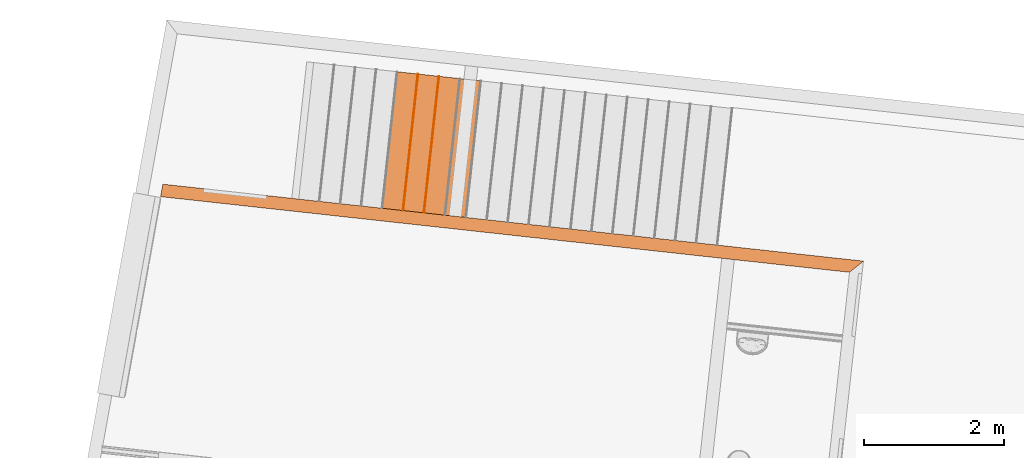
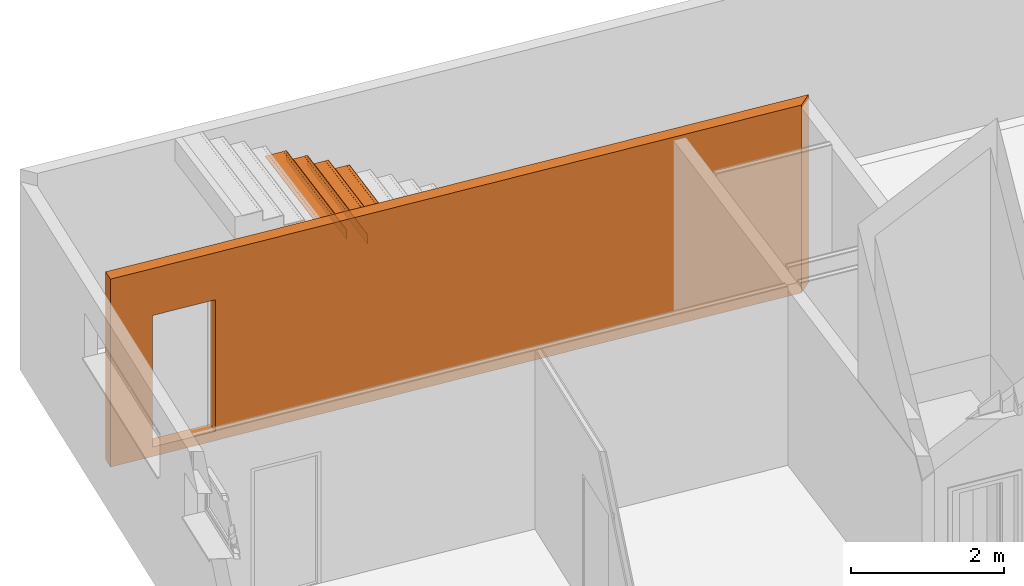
# One storey, part 74 of 79: 7 proxies, 1 element without a shape of its own.
"""IFC2X3 building model written with IfcOpenShell, lengths in metres."""

from ifc_helpers import new_model, entity, si_unit, converted_unit, derived_unit, money_unit, direction, frame, origin_with_axes, place, context, subcontext, project, spatial, polyline, outline, extrude, boolean, faceted_brep, material, type_object, element, aggregate, save


model = new_model("IFC2X3")

# Units and contexts
model_context = context("Model", 3, precision=1e-05, world=origin_with_axes(), true_north=direction((0.0, 1.0)))
body_context = subcontext(model_context, "Body", "Model", "MODEL_VIEW")
ifc_project = project(units=[si_unit("LENGTHUNIT", "METRE"), si_unit("AREAUNIT", "SQUARE_METRE"), si_unit("VOLUMEUNIT", "CUBIC_METRE"), converted_unit("PLANEANGLEUNIT", "DEGREE", entity("IfcPlaneAngleMeasure", 0.0174532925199), si_unit("PLANEANGLEUNIT", "RADIAN"), dimensions=[0, 0, 0, 0, 0, 0, 0]), money_unit("CHF"), converted_unit("TIMEUNIT", "Year", entity("IfcTimeMeasure", 31556926.0), si_unit("TIMEUNIT", "SECOND"), dimensions=[0, 0, 1, 0, 0, 0, 0]), si_unit("MASSUNIT", "GRAM", prefix="KILO"), si_unit("THERMODYNAMICTEMPERATUREUNIT", "DEGREE_CELSIUS"), si_unit("LUMINOUSINTENSITYUNIT", "LUMEN"), si_unit("ENERGYUNIT", "JOULE", prefix="MEGA"), derived_unit("THERMALCONDUCTANCEUNIT", [(si_unit("POWERUNIT", "WATT"), 1), (si_unit("LENGTHUNIT", "METRE"), -1), (si_unit("THERMODYNAMICTEMPERATUREUNIT", "KELVIN"), -1)]), derived_unit("SPECIFICHEATCAPACITYUNIT", [(si_unit("ENERGYUNIT", "JOULE"), 1), (si_unit("MASSUNIT", "GRAM", prefix="KILO"), -1), (si_unit("THERMODYNAMICTEMPERATUREUNIT", "KELVIN"), -1)]), derived_unit("MASSDENSITYUNIT", [(si_unit("MASSUNIT", "GRAM", prefix="KILO"), 1), (si_unit("VOLUMEUNIT", "CUBIC_METRE"), -1)])], contexts=[model_context])

# Site, building, storey
site_placement = place(None, frame((0.0, 0.0, 0.0), z_axis=(0.0, 0.0, 1.0), x_axis=(-0.177771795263, -0.984071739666, 0.0)))
site = spatial("IfcSite", under=ifc_project, at=site_placement, Name="Site", CompositionType="ELEMENT")
building_placement = place(site_placement, origin_with_axes())
building = spatial("IfcBuilding", under=site, at=building_placement, Name="Bâtiment", CompositionType="ELEMENT")
storey_placement = place(building_placement, origin_with_axes())
storey = spatial("IfcBuildingStorey", under=building, at=storey_placement, Name="RDC", CompositionType="ELEMENT", Elevation=0.0)

# Proxy
ifc_material_1 = material(Name="_BA banché RAL9007")
building_element_proxy_type_1 = type_object("IfcBuildingElementProxyType", Name="_BA banché RAL9007 180", PredefinedType="NOTDEFINED")
proxy_1_placement = place(storey_placement, frame((100.235952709, -159.217107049, -0.15), z_axis=(0.0, 0.0, 1.0), x_axis=(-0.0692627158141, 0.997598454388, 0.0)))
element("IfcBuildingElementProxy", 1, at=proxy_1_placement, inside=storey, type_object=building_element_proxy_type_1, material=ifc_material_1, Name="M refend", context=body_context, shape_type="CSG", body=[
    boolean("DIFFERENCE", extrude(outline(polyline([(0.348369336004, -0.18), (10.2172664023, -0.18), (10.3972661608, 0.0), (0.36086663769, 0.0), (0.348369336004, -0.18)])), origin_with_axes(), (0.0, 0.0, 1.0), 3.0), faceted_brep([(1.84793601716, 0.0, 0.15), (0.94793601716, 0.0, 0.15), (0.94793601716, 0.0, 2.25), (1.84793601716, 0.0, 2.25), (1.84793601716, -0.18, 0.15), (0.94793601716, -0.18, 0.15), (0.94793601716, -0.18, 2.25), (1.84793601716, -0.18, 2.25)], [[[0, 1, 2, 3]], [[4, 5, 1, 0]], [[5, 6, 2, 1]], [[6, 7, 3, 2]], [[7, 4, 0, 3]], [[4, 7, 6, 5]]])),
])

# Proxies
building_element_proxy_type_2 = type_object("IfcBuildingElementProxyType", Name="Type d'escalier", PredefinedType="NOTDEFINED")
proxy_2_placement = place(storey_placement, origin_with_axes())
proxy_2 = element("IfcBuildingElementProxy", 2, at=proxy_2_placement, inside=storey, type_object=building_element_proxy_type_2, Name="ESC-001")
ifc_material_2 = material(Name="Bois - Massif 01")
building_element_proxy_type_3 = type_object("IfcBuildingElementProxyType", Name="IfcBuildingElementProxy", PredefinedType="NOTDEFINED")
proxy_3_placement = place(proxy_2_placement, frame((98.9533692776, -155.188945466, 2.39), z_axis=(0.0, 0.0, 1.0), x_axis=(0.997579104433, 0.0695408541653, 0.0)))
proxy_3 = element("IfcBuildingElementProxy", 3, at=proxy_3_placement, type_object=building_element_proxy_type_3, material=ifc_material_2, Name="C-MARCHE-015", context=body_context, shape_type="Brep", body=[
    faceted_brep([(1.00049944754, 0.0, 0.0), (-0.955838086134, 0.0, 0.0), (-0.955838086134, -0.01, 0.0), (1.00049667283, -0.01, 0.0), (1.00049944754, 0.0, -0.15), (-0.955838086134, 0.0, -0.15), (-0.955838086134, -0.01, -0.15), (1.00049667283, -0.01, -0.15)], [[[0, 1, 2, 3]], [[4, 5, 1, 0]], [[1, 5, 6, 2]], [[3, 2, 6, 7]], [[0, 3, 7, 4]], [[7, 6, 5, 4]]]),
])
proxy_4_placement = place(proxy_2_placement, frame((98.9742315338, -155.488219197, 2.55), z_axis=(0.0, 0.0, 1.0), x_axis=(0.997579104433, 0.0695408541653, 0.0)))
proxy_4 = element("IfcBuildingElementProxy", 4, at=proxy_4_placement, type_object=building_element_proxy_type_3, material=ifc_material_2, Name="C-MARCHE-016", context=body_context, shape_type="Brep", body=[
    faceted_brep([(1.00041620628, 0.0, 0.0), (-0.955838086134, 0.0, 0.0), (-0.955838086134, -0.00999999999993, 0.0), (1.00041343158, -0.00999999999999, 0.0), (1.00041620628, 0.0, -0.15), (-0.955838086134, 0.0, -0.15), (-0.955838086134, -0.00999999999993, -0.15), (1.00041343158, -0.00999999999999, -0.15)], [[[0, 1, 2, 3]], [[4, 5, 1, 0]], [[1, 5, 6, 2]], [[3, 2, 6, 7]], [[0, 3, 7, 4]], [[7, 6, 5, 4]]]),
])
proxy_5_placement = place(proxy_2_placement, frame((98.9116447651, -154.590398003, 2.08), z_axis=(0.0, 0.0, 1.0), x_axis=(0.997579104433, 0.0695408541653, 0.0)))
proxy_5 = element("IfcBuildingElementProxy", 5, at=proxy_5_placement, type_object=building_element_proxy_type_3, material=ifc_material_2, Name="MARCHE-013", context=body_context, shape_type="Brep", body=[
    faceted_brep([(1.00066250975, -0.012326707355, -0.00589109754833), (1.00066176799, -0.015, -0.00401923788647), (1.00066045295, -0.0197393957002, -0.00180922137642), (1.0006590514, -0.02479055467, -0.00045576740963), (1.00065760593, -0.03, 0.0), (1.00057991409, -0.309999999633, 0.0), (1.00057991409, -0.309999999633, -0.01), (1.00066593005, 0.0, -0.01), (-0.955838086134, -0.012326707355, -0.00589109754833), (-0.955838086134, -0.015, -0.00401923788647), (-0.955838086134, -0.0197393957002, -0.00180922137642), (-0.955838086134, -0.02479055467, -0.00045576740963), (-0.955838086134, -0.03, 0.0), (-0.955838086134, -0.309999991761, 0.0), (-0.955838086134, -0.309999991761, -0.01), (-0.955838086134, 0.0, -0.01)], [[[0, 1, 2, 3, 4, 5, 6, 7]], [[0, 8, 9, 1]], [[1, 9, 10, 2]], [[2, 10, 11, 3]], [[3, 11, 12, 4]], [[5, 4, 12, 13]], [[13, 14, 6, 5]], [[7, 6, 14, 15]], [[7, 15, 8, 0]], [[12, 11, 10, 9, 8, 15, 14, 13]]]),
    faceted_brep([(-0.955838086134, -0.05, 0.0), (1.00066593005, -0.05, 0.0), (1.00066593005, -0.05, 0.003), (-0.955838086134, -0.05, 0.003), (-0.955838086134, -0.015, 0.0), (1.00066593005, -0.015, 0.0), (1.00066593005, -0.012395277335, -0.00022788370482), (1.00066593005, -0.00986969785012, -0.00090461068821), (1.00066593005, -0.00749999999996, -0.00200961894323), (1.00066593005, -0.0053581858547, -0.00350933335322), (1.00066593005, -0.00350933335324, -0.0053581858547), (1.00066593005, -0.0020096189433, -0.0075), (1.00066593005, -0.000904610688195, -0.00986969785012), (1.00066593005, -0.000227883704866, -0.012395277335), (1.00066593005, 0.0, -0.015), (1.00066593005, -0.000227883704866, -0.017604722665), (1.00066593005, -0.000904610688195, -0.0201303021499), (1.00066593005, -0.0020096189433, -0.0225), (1.00066593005, -0.00350933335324, -0.0246418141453), (1.00066593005, -0.0053581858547, -0.0264906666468), (1.00066593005, -0.00749999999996, -0.0279903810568), (1.00066593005, -0.00986969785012, -0.0290953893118), (1.00066593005, -0.012395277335, -0.0297721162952), (1.00066593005, -0.015, -0.03), (1.00066593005, -0.015, -0.033), (1.00066593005, -0.011874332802, -0.0327265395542), (1.00066593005, -0.00884363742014, -0.0319144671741), (1.00066593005, -0.006, -0.0305884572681), (1.00066593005, -0.00342982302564, -0.0287887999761), (1.00066593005, -0.0012112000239, -0.0265701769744), (1.00066593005, 0.000588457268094, -0.024), (1.00066593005, 0.00191446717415, -0.0211563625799), (1.00066593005, 0.00272653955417, -0.018125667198), (1.00066593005, 0.00299999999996, -0.015), (1.00066593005, 0.00272653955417, -0.011874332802), (1.00066593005, 0.00191446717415, -0.00884363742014), (1.00066593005, 0.000588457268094, -0.006), (1.00066593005, -0.0012112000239, -0.00342982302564), (1.00066593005, -0.00342982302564, -0.00121120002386), (1.00066593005, -0.006, 0.00058845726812), (1.00066593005, -0.00884363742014, 0.00191446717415), (1.00066593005, -0.011874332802, 0.00272653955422), (1.00066593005, -0.015, 0.003), (-0.955838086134, -0.015, 0.003), (-0.955838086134, -0.011874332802, 0.00272653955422), (-0.955838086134, -0.0088436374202, 0.00191446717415), (-0.955838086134, -0.00600000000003, 0.00058845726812), (-0.955838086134, -0.00342982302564, -0.00121120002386), (-0.955838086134, -0.00121120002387, -0.00342982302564), (-0.955838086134, 0.000588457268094, -0.006), (-0.955838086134, 0.00191446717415, -0.00884363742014), (-0.955838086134, 0.0027265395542, -0.011874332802), (-0.955838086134, 0.00299999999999, -0.015), (-0.955838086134, 0.0027265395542, -0.018125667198), (-0.955838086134, 0.00191446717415, -0.0211563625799), (-0.955838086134, 0.000588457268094, -0.024), (-0.955838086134, -0.00121120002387, -0.0265701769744), (-0.955838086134, -0.00342982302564, -0.0287887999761), (-0.955838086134, -0.00600000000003, -0.0305884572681), (-0.955838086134, -0.0088436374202, -0.0319144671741), (-0.955838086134, -0.011874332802, -0.0327265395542), (-0.955838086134, -0.015, -0.033), (-0.955838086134, -0.015, -0.03), (-0.955838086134, -0.012395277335, -0.0297721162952), (-0.955838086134, -0.00986969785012, -0.0290953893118), (-0.955838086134, -0.00750000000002, -0.0279903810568), (-0.955838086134, -0.0053581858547, -0.0264906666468), (-0.955838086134, -0.00350933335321, -0.0246418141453), (-0.955838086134, -0.00200961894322, -0.0225), (-0.955838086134, -0.000904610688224, -0.0201303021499), (-0.955838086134, -0.000227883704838, -0.017604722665), (-0.955838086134, 0.0, -0.015), (-0.955838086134, -0.000227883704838, -0.012395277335), (-0.955838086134, -0.000904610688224, -0.00986969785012), (-0.955838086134, -0.00200961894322, -0.0075), (-0.955838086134, -0.00350933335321, -0.0053581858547), (-0.955838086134, -0.0053581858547, -0.00350933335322), (-0.955838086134, -0.00750000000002, -0.00200961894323), (-0.955838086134, -0.00986969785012, -0.00090461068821), (-0.955838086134, -0.012395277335, -0.00022788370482)], [[[0, 1, 2, 3]], [[4, 5, 1, 0]], [[1, 5, 6, 7, 8, 9, 10, 11, 12, 13, 14, 15, 16, 17, 18, 19, 20, 21, 22, 23, 24, 25, 26, 27, 28, 29, 30, 31, 32, 33, 34, 35, 36, 37, 38, 39, 40, 41, 42, 2]], [[3, 2, 42, 43]], [[0, 3, 43, 44, 45, 46, 47, 48, 49, 50, 51, 52, 53, 54, 55, 56, 57, 58, 59, 60, 61, 62, 63, 64, 65, 66, 67, 68, 69, 70, 71, 72, 73, 74, 75, 76, 77, 78, 79, 4]], [[79, 6, 5, 4]], [[78, 7, 6, 79]], [[77, 8, 7, 78]], [[76, 9, 8, 77]], [[75, 10, 9, 76]], [[74, 11, 10, 75]], [[73, 12, 11, 74]], [[72, 13, 12, 73]], [[71, 14, 13, 72]], [[70, 15, 14, 71]], [[69, 16, 15, 70]], [[68, 17, 16, 69]], [[67, 18, 17, 68]], [[66, 19, 18, 67]], [[65, 20, 19, 66]], [[64, 21, 20, 65]], [[63, 22, 21, 64]], [[62, 23, 22, 63]], [[61, 24, 23, 62]], [[60, 25, 24, 61]], [[59, 26, 25, 60]], [[58, 27, 26, 59]], [[57, 28, 27, 58]], [[56, 29, 28, 57]], [[55, 30, 29, 56]], [[54, 31, 30, 55]], [[53, 32, 31, 54]], [[52, 33, 32, 53]], [[51, 34, 33, 52]], [[50, 35, 34, 51]], [[49, 36, 35, 50]], [[48, 37, 36, 49]], [[47, 38, 37, 48]], [[46, 39, 38, 47]], [[45, 40, 39, 46]], [[44, 41, 40, 45]], [[43, 42, 41, 44]]]),
])
proxy_6_placement = place(proxy_2_placement, frame((98.9325070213, -154.889671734, 2.24), z_axis=(0.0, 0.0, 1.0), x_axis=(0.997579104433, 0.0695408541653, 0.0)))
proxy_6 = element("IfcBuildingElementProxy", 6, at=proxy_6_placement, type_object=building_element_proxy_type_3, material=ifc_material_2, Name="MARCHE-014", context=body_context, shape_type="Brep", body=[
    faceted_brep([(1.0005792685, -0.012326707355, -0.00589109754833), (1.00057852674, -0.015, -0.00401923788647), (1.00057721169, -0.0197393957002, -0.00180922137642), (1.00057581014, -0.02479055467, -0.00045576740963), (1.00057436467, -0.03, 0.0), (1.00049667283, -0.309999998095, 0.0), (1.00049667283, -0.309999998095, -0.01), (1.0005826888, 0.0, -0.01), (-0.955838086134, -0.012326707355, -0.00589109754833), (-0.955838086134, -0.015, -0.00401923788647), (-0.955838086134, -0.0197393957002, -0.00180922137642), (-0.955838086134, -0.02479055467, -0.00045576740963), (-0.955838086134, -0.03, 0.0), (-0.955838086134, -0.309999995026, 0.0), (-0.955838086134, -0.309999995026, -0.01), (-0.955838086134, 0.0, -0.01)], [[[0, 1, 2, 3, 4, 5, 6, 7]], [[0, 8, 9, 1]], [[1, 9, 10, 2]], [[2, 10, 11, 3]], [[3, 11, 12, 4]], [[5, 4, 12, 13]], [[13, 14, 6, 5]], [[7, 6, 14, 15]], [[7, 15, 8, 0]], [[12, 11, 10, 9, 8, 15, 14, 13]]]),
    faceted_brep([(-0.955838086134, -0.05, 0.0), (1.0005826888, -0.05, 0.0), (1.0005826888, -0.05, 0.003), (-0.955838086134, -0.05, 0.003), (-0.955838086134, -0.015, 0.0), (1.0005826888, -0.015, 0.0), (1.0005826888, -0.012395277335, -0.00022788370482), (1.0005826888, -0.00986969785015, -0.00090461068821), (1.0005826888, -0.00750000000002, -0.00200961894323), (1.0005826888, -0.00535818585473, -0.00350933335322), (1.0005826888, -0.00350933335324, -0.0053581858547), (1.0005826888, -0.00200961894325, -0.0075), (1.0005826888, -0.000904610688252, -0.00986969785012), (1.0005826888, -0.000227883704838, -0.012395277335), (1.0005826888, 0.0, -0.015), (1.0005826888, -0.000227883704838, -0.017604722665), (1.0005826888, -0.000904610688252, -0.0201303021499), (1.0005826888, -0.00200961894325, -0.0225), (1.0005826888, -0.00350933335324, -0.0246418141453), (1.0005826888, -0.00535818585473, -0.0264906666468), (1.0005826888, -0.00750000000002, -0.0279903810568), (1.0005826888, -0.00986969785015, -0.0290953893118), (1.0005826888, -0.012395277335, -0.0297721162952), (1.0005826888, -0.015, -0.03), (1.0005826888, -0.015, -0.033), (1.0005826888, -0.011874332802, -0.0327265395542), (1.0005826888, -0.00884363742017, -0.0319144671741), (1.0005826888, -0.00600000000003, -0.0305884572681), (1.0005826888, -0.0034298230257, -0.0287887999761), (1.0005826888, -0.00121120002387, -0.0265701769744), (1.0005826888, 0.000588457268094, -0.024), (1.0005826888, 0.00191446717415, -0.0211563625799), (1.0005826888, 0.0027265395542, -0.018125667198), (1.0005826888, 0.00299999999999, -0.015), (1.0005826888, 0.0027265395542, -0.011874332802), (1.0005826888, 0.00191446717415, -0.00884363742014), (1.0005826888, 0.000588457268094, -0.006), (1.0005826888, -0.00121120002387, -0.00342982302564), (1.0005826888, -0.0034298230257, -0.00121120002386), (1.0005826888, -0.00600000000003, 0.00058845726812), (1.0005826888, -0.00884363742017, 0.00191446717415), (1.0005826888, -0.011874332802, 0.00272653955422), (1.0005826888, -0.015, 0.003), (-0.955838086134, -0.015, 0.003), (-0.955838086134, -0.011874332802, 0.00272653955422), (-0.955838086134, -0.00884363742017, 0.00191446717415), (-0.955838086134, -0.00600000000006, 0.00058845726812), (-0.955838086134, -0.00342982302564, -0.00121120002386), (-0.955838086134, -0.00121120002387, -0.00342982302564), (-0.955838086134, 0.000588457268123, -0.006), (-0.955838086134, 0.00191446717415, -0.00884363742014), (-0.955838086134, 0.00272653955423, -0.011874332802), (-0.955838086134, 0.00299999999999, -0.015), (-0.955838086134, 0.00272653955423, -0.018125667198), (-0.955838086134, 0.00191446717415, -0.0211563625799), (-0.955838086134, 0.000588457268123, -0.024), (-0.955838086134, -0.00121120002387, -0.0265701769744), (-0.955838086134, -0.00342982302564, -0.0287887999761), (-0.955838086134, -0.00600000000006, -0.0305884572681), (-0.955838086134, -0.00884363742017, -0.0319144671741), (-0.955838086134, -0.011874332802, -0.0327265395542), (-0.955838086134, -0.015, -0.033), (-0.955838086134, -0.015, -0.03), (-0.955838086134, -0.012395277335, -0.0297721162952), (-0.955838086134, -0.00986969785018, -0.0290953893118), (-0.955838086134, -0.00750000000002, -0.0279903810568), (-0.955838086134, -0.00535818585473, -0.0264906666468), (-0.955838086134, -0.00350933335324, -0.0246418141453), (-0.955838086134, -0.00200961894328, -0.0225), (-0.955838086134, -0.000904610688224, -0.0201303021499), (-0.955838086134, -0.000227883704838, -0.017604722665), (-0.955838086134, 0.0, -0.015), (-0.955838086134, -0.000227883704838, -0.012395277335), (-0.955838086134, -0.000904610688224, -0.00986969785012), (-0.955838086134, -0.00200961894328, -0.0075), (-0.955838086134, -0.00350933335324, -0.0053581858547), (-0.955838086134, -0.00535818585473, -0.00350933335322), (-0.955838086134, -0.00750000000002, -0.00200961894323), (-0.955838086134, -0.00986969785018, -0.00090461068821), (-0.955838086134, -0.012395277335, -0.00022788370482)], [[[0, 1, 2, 3]], [[4, 5, 1, 0]], [[1, 5, 6, 7, 8, 9, 10, 11, 12, 13, 14, 15, 16, 17, 18, 19, 20, 21, 22, 23, 24, 25, 26, 27, 28, 29, 30, 31, 32, 33, 34, 35, 36, 37, 38, 39, 40, 41, 42, 2]], [[3, 2, 42, 43]], [[0, 3, 43, 44, 45, 46, 47, 48, 49, 50, 51, 52, 53, 54, 55, 56, 57, 58, 59, 60, 61, 62, 63, 64, 65, 66, 67, 68, 69, 70, 71, 72, 73, 74, 75, 76, 77, 78, 79, 4]], [[79, 6, 5, 4]], [[78, 7, 6, 79]], [[77, 8, 7, 78]], [[76, 9, 8, 77]], [[75, 10, 9, 76]], [[74, 11, 10, 75]], [[73, 12, 11, 74]], [[72, 13, 12, 73]], [[71, 14, 13, 72]], [[70, 15, 14, 71]], [[69, 16, 15, 70]], [[68, 17, 16, 69]], [[67, 18, 17, 68]], [[66, 19, 18, 67]], [[65, 20, 19, 66]], [[64, 21, 20, 65]], [[63, 22, 21, 64]], [[62, 23, 22, 63]], [[61, 24, 23, 62]], [[60, 25, 24, 61]], [[59, 26, 25, 60]], [[58, 27, 26, 59]], [[57, 28, 27, 58]], [[56, 29, 28, 57]], [[55, 30, 29, 56]], [[54, 31, 30, 55]], [[53, 32, 31, 54]], [[52, 33, 32, 53]], [[51, 34, 33, 52]], [[50, 35, 34, 51]], [[49, 36, 35, 50]], [[48, 37, 36, 49]], [[47, 38, 37, 48]], [[46, 39, 38, 47]], [[45, 40, 39, 46]], [[44, 41, 40, 45]], [[43, 42, 41, 44]]]),
])
proxy_7_placement = place(proxy_2_placement, frame((98.9533692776, -155.188945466, 2.4), z_axis=(0.0, 0.0, 1.0), x_axis=(0.997579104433, 0.0695408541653, 0.0)))
proxy_7 = element("IfcBuildingElementProxy", 7, at=proxy_7_placement, type_object=building_element_proxy_type_3, material=ifc_material_2, Name="MARCHE-015", context=body_context, shape_type="Brep", body=[
    faceted_brep([(1.00049602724, -0.012326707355, -0.00589109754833), (1.00049528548, -0.015, -0.00401923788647), (1.00049397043, -0.0197393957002, -0.00180922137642), (1.00049256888, -0.02479055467, -0.00045576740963), (1.00049112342, -0.03, 0.0), (1.00041343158, -0.310000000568, 0.0), (1.00041343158, -0.310000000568, -0.01), (1.00049944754, 0.0, -0.01), (-0.955838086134, -0.012326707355, -0.00589109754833), (-0.955838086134, -0.015, -0.00401923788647), (-0.955838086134, -0.0197393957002, -0.00180922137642), (-0.955838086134, -0.02479055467, -0.00045576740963), (-0.955838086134, -0.03, 0.0), (-0.955838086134, -0.309999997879, 0.0), (-0.955838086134, -0.309999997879, -0.01), (-0.955838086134, 0.0, -0.01)], [[[0, 1, 2, 3, 4, 5, 6, 7]], [[0, 8, 9, 1]], [[1, 9, 10, 2]], [[2, 10, 11, 3]], [[3, 11, 12, 4]], [[5, 4, 12, 13]], [[13, 14, 6, 5]], [[7, 6, 14, 15]], [[7, 15, 8, 0]], [[12, 11, 10, 9, 8, 15, 14, 13]]]),
    faceted_brep([(-0.955838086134, -0.05, 0.0), (1.00049944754, -0.05, 0.0), (1.00049944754, -0.05, 0.003), (-0.955838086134, -0.05, 0.003), (-0.955838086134, -0.015, 0.0), (1.00049944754, -0.015, 0.0), (1.00049944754, -0.012395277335, -0.00022788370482), (1.00049944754, -0.00986969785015, -0.00090461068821), (1.00049944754, -0.00749999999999, -0.00200961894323), (1.00049944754, -0.0053581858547, -0.00350933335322), (1.00049944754, -0.00350933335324, -0.0053581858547), (1.00049944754, -0.00200961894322, -0.0075), (1.00049944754, -0.000904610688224, -0.00986969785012), (1.00049944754, -0.000227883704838, -0.012395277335), (1.00049944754, 0.0, -0.015), (1.00049944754, -0.000227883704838, -0.017604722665), (1.00049944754, -0.000904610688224, -0.0201303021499), (1.00049944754, -0.00200961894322, -0.0225), (1.00049944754, -0.00350933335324, -0.0246418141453), (1.00049944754, -0.0053581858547, -0.0264906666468), (1.00049944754, -0.00749999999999, -0.0279903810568), (1.00049944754, -0.00986969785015, -0.0290953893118), (1.00049944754, -0.012395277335, -0.0297721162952), (1.00049944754, -0.015, -0.03), (1.00049944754, -0.015, -0.033), (1.00049944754, -0.011874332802, -0.0327265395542), (1.00049944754, -0.00884363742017, -0.0319144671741), (1.00049944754, -0.00600000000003, -0.0305884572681), (1.00049944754, -0.00342982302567, -0.0287887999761), (1.00049944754, -0.00121120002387, -0.0265701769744), (1.00049944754, 0.000588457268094, -0.024), (1.00049944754, 0.00191446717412, -0.0211563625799), (1.00049944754, 0.0027265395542, -0.018125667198), (1.00049944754, 0.00299999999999, -0.015), (1.00049944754, 0.0027265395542, -0.011874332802), (1.00049944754, 0.00191446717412, -0.00884363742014), (1.00049944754, 0.000588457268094, -0.006), (1.00049944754, -0.00121120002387, -0.00342982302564), (1.00049944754, -0.00342982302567, -0.00121120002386), (1.00049944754, -0.00600000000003, 0.00058845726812), (1.00049944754, -0.00884363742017, 0.00191446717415), (1.00049944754, -0.011874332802, 0.00272653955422), (1.00049944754, -0.015, 0.003), (-0.955838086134, -0.015, 0.003), (-0.955838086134, -0.011874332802, 0.00272653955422), (-0.955838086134, -0.00884363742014, 0.00191446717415), (-0.955838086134, -0.00600000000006, 0.00058845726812), (-0.955838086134, -0.00342982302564, -0.00121120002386), (-0.955838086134, -0.00121120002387, -0.00342982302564), (-0.955838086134, 0.000588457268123, -0.006), (-0.955838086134, 0.00191446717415, -0.00884363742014), (-0.955838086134, 0.00272653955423, -0.011874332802), (-0.955838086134, 0.00299999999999, -0.015), (-0.955838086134, 0.00272653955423, -0.018125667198), (-0.955838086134, 0.00191446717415, -0.0211563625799), (-0.955838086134, 0.000588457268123, -0.024), (-0.955838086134, -0.00121120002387, -0.0265701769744), (-0.955838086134, -0.00342982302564, -0.0287887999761), (-0.955838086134, -0.00600000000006, -0.0305884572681), (-0.955838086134, -0.00884363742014, -0.0319144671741), (-0.955838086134, -0.011874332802, -0.0327265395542), (-0.955838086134, -0.015, -0.033), (-0.955838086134, -0.015, -0.03), (-0.955838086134, -0.012395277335, -0.0297721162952), (-0.955838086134, -0.00986969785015, -0.0290953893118), (-0.955838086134, -0.00749999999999, -0.0279903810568), (-0.955838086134, -0.00535818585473, -0.0264906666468), (-0.955838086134, -0.00350933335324, -0.0246418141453), (-0.955838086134, -0.00200961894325, -0.0225), (-0.955838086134, -0.000904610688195, -0.0201303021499), (-0.955838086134, -0.000227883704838, -0.017604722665), (-0.955838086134, 0.0, -0.015), (-0.955838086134, -0.000227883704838, -0.012395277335), (-0.955838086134, -0.000904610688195, -0.00986969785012), (-0.955838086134, -0.00200961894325, -0.0075), (-0.955838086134, -0.00350933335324, -0.0053581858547), (-0.955838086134, -0.00535818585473, -0.00350933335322), (-0.955838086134, -0.00749999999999, -0.00200961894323), (-0.955838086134, -0.00986969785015, -0.00090461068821), (-0.955838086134, -0.012395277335, -0.00022788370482)], [[[0, 1, 2, 3]], [[4, 5, 1, 0]], [[1, 5, 6, 7, 8, 9, 10, 11, 12, 13, 14, 15, 16, 17, 18, 19, 20, 21, 22, 23, 24, 25, 26, 27, 28, 29, 30, 31, 32, 33, 34, 35, 36, 37, 38, 39, 40, 41, 42, 2]], [[3, 2, 42, 43]], [[0, 3, 43, 44, 45, 46, 47, 48, 49, 50, 51, 52, 53, 54, 55, 56, 57, 58, 59, 60, 61, 62, 63, 64, 65, 66, 67, 68, 69, 70, 71, 72, 73, 74, 75, 76, 77, 78, 79, 4]], [[79, 6, 5, 4]], [[78, 7, 6, 79]], [[77, 8, 7, 78]], [[76, 9, 8, 77]], [[75, 10, 9, 76]], [[74, 11, 10, 75]], [[73, 12, 11, 74]], [[72, 13, 12, 73]], [[71, 14, 13, 72]], [[70, 15, 14, 71]], [[69, 16, 15, 70]], [[68, 17, 16, 69]], [[67, 18, 17, 68]], [[66, 19, 18, 67]], [[65, 20, 19, 66]], [[64, 21, 20, 65]], [[63, 22, 21, 64]], [[62, 23, 22, 63]], [[61, 24, 23, 62]], [[60, 25, 24, 61]], [[59, 26, 25, 60]], [[58, 27, 26, 59]], [[57, 28, 27, 58]], [[56, 29, 28, 57]], [[55, 30, 29, 56]], [[54, 31, 30, 55]], [[53, 32, 31, 54]], [[52, 33, 32, 53]], [[51, 34, 33, 52]], [[50, 35, 34, 51]], [[49, 36, 35, 50]], [[48, 37, 36, 49]], [[47, 38, 37, 48]], [[46, 39, 38, 47]], [[45, 40, 39, 46]], [[44, 41, 40, 45]], [[43, 42, 41, 44]]]),
])
proxy_8_placement = place(proxy_2_placement, frame((98.9742315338, -155.488219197, 2.56), z_axis=(0.0, 0.0, 1.0), x_axis=(0.997579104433, 0.0695408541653, 0.0)))
proxy_8 = element("IfcBuildingElementProxy", 8, at=proxy_8_placement, type_object=building_element_proxy_type_3, material=ifc_material_2, Name="MARCHE-016", context=body_context, shape_type="Brep", body=[
    faceted_brep([(1.00041278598, -0.012326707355, -0.00589109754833), (1.00041204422, -0.015, -0.00401923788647), (1.00041072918, -0.0197393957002, -0.00180922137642), (1.00040932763, -0.02479055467, -0.00045576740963), (1.00040788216, -0.03, 0.0), (1.00033019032, -0.309999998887, 0.0), (1.00033019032, -0.309999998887, -0.01), (1.00041620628, 0.0, -0.01), (-0.955838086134, -0.012326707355, -0.00589109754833), (-0.955838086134, -0.015, -0.00401923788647), (-0.955838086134, -0.0197393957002, -0.00180922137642), (-0.955838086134, -0.02479055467, -0.00045576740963), (-0.955838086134, -0.03, 0.0), (-0.955838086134, -0.310000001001, 0.0), (-0.955838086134, -0.310000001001, -0.01), (-0.955838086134, 0.0, -0.01)], [[[0, 1, 2, 3, 4, 5, 6, 7]], [[0, 8, 9, 1]], [[1, 9, 10, 2]], [[2, 10, 11, 3]], [[3, 11, 12, 4]], [[5, 4, 12, 13]], [[13, 14, 6, 5]], [[7, 6, 14, 15]], [[7, 15, 8, 0]], [[12, 11, 10, 9, 8, 15, 14, 13]]]),
    faceted_brep([(-0.955838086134, -0.05, 0.0), (1.00041620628, -0.05, 0.0), (1.00041620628, -0.05, 0.003), (-0.955838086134, -0.05, 0.003), (-0.955838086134, -0.015, 0.0), (1.00041620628, -0.015, 0.0), (1.00041620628, -0.012395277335, -0.00022788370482), (1.00041620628, -0.00986969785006, -0.00090461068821), (1.00041620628, -0.00749999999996, -0.00200961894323), (1.00041620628, -0.0053581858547, -0.00350933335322), (1.00041620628, -0.00350933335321, -0.0053581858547), (1.00041620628, -0.00200961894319, -0.0075), (1.00041620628, -0.000904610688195, -0.00986969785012), (1.00041620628, -0.00022788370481, -0.012395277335), (1.00041620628, 0.0, -0.015), (1.00041620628, -0.00022788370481, -0.017604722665), (1.00041620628, -0.000904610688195, -0.0201303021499), (1.00041620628, -0.00200961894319, -0.0225), (1.00041620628, -0.00350933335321, -0.0246418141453), (1.00041620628, -0.0053581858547, -0.0264906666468), (1.00041620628, -0.00749999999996, -0.0279903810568), (1.00041620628, -0.00986969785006, -0.0290953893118), (1.00041620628, -0.012395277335, -0.0297721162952), (1.00041620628, -0.015, -0.03), (1.00041620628, -0.015, -0.033), (1.00041620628, -0.011874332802, -0.0327265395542), (1.00041620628, -0.00884363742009, -0.0319144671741), (1.00041620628, -0.006, -0.0305884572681), (1.00041620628, -0.00342982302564, -0.0287887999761), (1.00041620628, -0.00121120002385, -0.0265701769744), (1.00041620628, 0.000588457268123, -0.024), (1.00041620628, 0.00191446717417, -0.0211563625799), (1.00041620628, 0.00272653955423, -0.018125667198), (1.00041620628, 0.00300000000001, -0.015), (1.00041620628, 0.00272653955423, -0.011874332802), (1.00041620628, 0.00191446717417, -0.00884363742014), (1.00041620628, 0.000588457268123, -0.006), (1.00041620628, -0.00121120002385, -0.00342982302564), (1.00041620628, -0.00342982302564, -0.00121120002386), (1.00041620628, -0.006, 0.00058845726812), (1.00041620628, -0.00884363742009, 0.00191446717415), (1.00041620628, -0.011874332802, 0.00272653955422), (1.00041620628, -0.015, 0.003), (-0.955838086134, -0.015, 0.003), (-0.955838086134, -0.011874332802, 0.00272653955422), (-0.955838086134, -0.00884363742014, 0.00191446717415), (-0.955838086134, -0.00599999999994, 0.00058845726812), (-0.955838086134, -0.00342982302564, -0.00121120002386), (-0.955838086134, -0.00121120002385, -0.00342982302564), (-0.955838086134, 0.000588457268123, -0.006), (-0.955838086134, 0.00191446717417, -0.00884363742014), (-0.955838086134, 0.00272653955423, -0.011874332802), (-0.955838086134, 0.00300000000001, -0.015), (-0.955838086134, 0.00272653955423, -0.018125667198), (-0.955838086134, 0.00191446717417, -0.0211563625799), (-0.955838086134, 0.000588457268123, -0.024), (-0.955838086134, -0.00121120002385, -0.0265701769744), (-0.955838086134, -0.00342982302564, -0.0287887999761), (-0.955838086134, -0.00599999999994, -0.0305884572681), (-0.955838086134, -0.00884363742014, -0.0319144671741), (-0.955838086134, -0.011874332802, -0.0327265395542), (-0.955838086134, -0.015, -0.033), (-0.955838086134, -0.015, -0.03), (-0.955838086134, -0.012395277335, -0.0297721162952), (-0.955838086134, -0.00986969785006, -0.0290953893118), (-0.955838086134, -0.00749999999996, -0.0279903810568), (-0.955838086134, -0.00535818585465, -0.0264906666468), (-0.955838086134, -0.00350933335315, -0.0246418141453), (-0.955838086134, -0.00200961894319, -0.0225), (-0.955838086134, -0.000904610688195, -0.0201303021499), (-0.955838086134, -0.00022788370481, -0.017604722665), (-0.955838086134, 0.0, -0.015), (-0.955838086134, -0.00022788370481, -0.012395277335), (-0.955838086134, -0.000904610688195, -0.00986969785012), (-0.955838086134, -0.00200961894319, -0.0075), (-0.955838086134, -0.00350933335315, -0.0053581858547), (-0.955838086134, -0.00535818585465, -0.00350933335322), (-0.955838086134, -0.00749999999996, -0.00200961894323), (-0.955838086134, -0.00986969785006, -0.00090461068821), (-0.955838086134, -0.012395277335, -0.00022788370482)], [[[0, 1, 2, 3]], [[4, 5, 1, 0]], [[1, 5, 6, 7, 8, 9, 10, 11, 12, 13, 14, 15, 16, 17, 18, 19, 20, 21, 22, 23, 24, 25, 26, 27, 28, 29, 30, 31, 32, 33, 34, 35, 36, 37, 38, 39, 40, 41, 42, 2]], [[3, 2, 42, 43]], [[0, 3, 43, 44, 45, 46, 47, 48, 49, 50, 51, 52, 53, 54, 55, 56, 57, 58, 59, 60, 61, 62, 63, 64, 65, 66, 67, 68, 69, 70, 71, 72, 73, 74, 75, 76, 77, 78, 79, 4]], [[79, 6, 5, 4]], [[78, 7, 6, 79]], [[77, 8, 7, 78]], [[76, 9, 8, 77]], [[75, 10, 9, 76]], [[74, 11, 10, 75]], [[73, 12, 11, 74]], [[72, 13, 12, 73]], [[71, 14, 13, 72]], [[70, 15, 14, 71]], [[69, 16, 15, 70]], [[68, 17, 16, 69]], [[67, 18, 17, 68]], [[66, 19, 18, 67]], [[65, 20, 19, 66]], [[64, 21, 20, 65]], [[63, 22, 21, 64]], [[62, 23, 22, 63]], [[61, 24, 23, 62]], [[60, 25, 24, 61]], [[59, 26, 25, 60]], [[58, 27, 26, 59]], [[57, 28, 27, 58]], [[56, 29, 28, 57]], [[55, 30, 29, 56]], [[54, 31, 30, 55]], [[53, 32, 31, 54]], [[52, 33, 32, 53]], [[51, 34, 33, 52]], [[50, 35, 34, 51]], [[49, 36, 35, 50]], [[48, 37, 36, 49]], [[47, 38, 37, 48]], [[46, 39, 38, 47]], [[45, 40, 39, 46]], [[44, 41, 40, 45]], [[43, 42, 41, 44]]]),
])
aggregate(proxy_2, [proxy_3, proxy_4, proxy_5, proxy_6, proxy_7, proxy_8])

save(model, "model.ifc")
